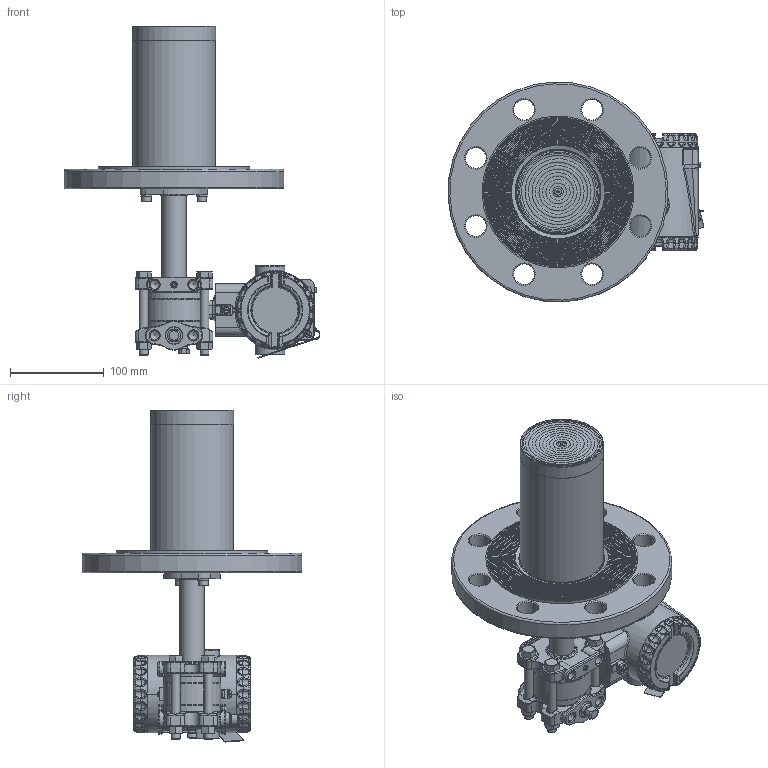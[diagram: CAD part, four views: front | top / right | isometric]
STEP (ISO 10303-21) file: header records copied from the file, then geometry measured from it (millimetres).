
FILE_DESCRIPTION(/* description */ (''),/* implementation_level */ '2;1');
FILE_NAME(/* name */ 'F:\Area\Desenvolvimento_2\Projects\Sensor\projetos\LD400-3d\dimensionais 3D clientes\LD400L\LD400L DN100 PN40 RF ext 150 ref 1-4NPT purga acima.stp',/* time_stamp */ '2023-02-23T17:58:43-03:00',/* author */ ('inventor02'),/* organization */ (''),/* preprocessor_version */ 'ST-DEVELOPER v17',/* originating_system */ 'Autodesk Inventor 2019',/* authorisation */ '');
FILE_SCHEMA (('CONFIG_CONTROL_DESIGN'));
Products named in the file (41): LD30XL DN100 PN40 RF ext 150 ref 1-4NPT purga acima; 204-0301-L-DN100 PN40 RF ext 150 purga acima; nivel fx3 com baixa diferencial 1-4NPT purga acima; involucro fx0-3 apos a usinagem final; flange diferencial std purga; 101-C-7484-01 flange selo nivel VR; 201-A-0504-tubo união teste 1; bujao 1-4NPT; Sangria; Porca 3-8 x 16 UNC; Paraf. 3-8 x 16 UNC; adaptação tubo x flanges 1-1-2 a 4pol; 101-B-0161-anel cortado do tubo - teste1; 101-B-0162-flange fixação tubo; ANSI B18.3.1M - M6x1 x 16; DIN 127 - A 6; flange DN100 PN40 ext 150; 096-B-0212-15; 101-B-7702-02 ext 4-150; 101-C-0143-09; Carcaça 400 com tampas e plaqueta sem letras; 101-D-0845-05 carcaça LD400 sem letras; 101-B-3614-03-tampa 400 sem letras; Tampa visor 400 montada sem letras; 101-B-3612-05 tampa visor 400 sem letras; 101-A-6107; oring 2034; 00034775-0; WHW_250; DIN 915 - M6 x 10; Chapa aterramento externo; 201-A-1771-02 inserto terra recartilhado; AS 1969 - ST4,2; ISO 1207 - M4 x 8; ANSI B18.3.1M - M4x0,7 x 8; Subconjunto plaqueta 400; plaqueta 400 em branco; Parafuso da Plaqueta; Rebite da Plaqueta; 096-A-0169-03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
Assembly tree (50 placements, depth 4):
  LD30XL DN100 PN40 RF ext 150 ref 1-4NPT purga acima
    204-0301-L-DN100 PN40 RF ext 150 purga acima
      nivel fx3 com baixa diferencial 1-4NPT purga acima
        involucro fx0-3 apos a usinagem final
        flange diferencial std purga
        101-C-7484-01 flange selo nivel VR
        201-A-0504-tubo união teste 1
        DIN 915 - M6 x 10
        bujao 1-4NPT
        Sangria
        Porca 3-8 x 16 UNC  x4
        Paraf. 3-8 x 16 UNC  x4
      adaptação tubo x flanges 1-1-2 a 4pol
        101-B-0161-anel cortado do tubo - teste1
        101-B-0162-flange fixação tubo
        ANSI B18.3.1M - M6x1 x 16  x2
        DIN 127 - A 6  x2
      flange DN100 PN40 ext 150
        096-B-0212-15
        101-B-7702-02 ext 4-150
        101-C-0143-09
    Carcaça 400 com tampas e plaqueta sem letras
      101-D-0845-05 carcaça LD400 sem letras
      101-B-3614-03-tampa 400 sem letras
      Tampa visor 400 montada sem letras
        101-B-3612-05 tampa visor 400 sem letras
        101-A-6107
        oring 2034
        00034775-0
        WHW_250
      DIN 915 - M6 x 10
      Chapa aterramento externo
      201-A-1771-02 inserto terra recartilhado
      AS 1969 - ST4,2
      ISO 1207 - M4 x 8
      ANSI B18.3.1M - M4x0,7 x 8  x2
      Subconjunto plaqueta 400
        plaqueta 400 em branco
        Parafuso da Plaqueta
        Rebite da Plaqueta
        096-A-0169-03
        101-A-0502-01
Bounding box: 273.13 x 234.78 x 354.42 mm (x, y, z)
Volume: 1807534.9 mm3; surface area: 459671.4 mm2
Topology: 43 solids, 43 shells, 2837 faces, 6840 edges, 4116 vertices
Faces by surface type: plane 753, cylinder 668, bspline 604, torus 506, cone 230, sphere 76
Full cylindrical faces by diameter (mm): 2 x4, 2.1 x1, 2.2 x1, 2.459 x3, 2.5 x1, 2.7 x1, 2.8 x1, 3 x4, 3.242 x3, 3.5 x1, 3.571 x1, 4 x5, 4.3 x2, 4.4 x1, 4.917 x4, 5 x1, 5.5 x3, 6 x6, 6.1 x2, 6.2 x1, 6.647 x1, 7 x5, 7.6 x2, 7.798 x4, 8 x1, 9.525 x4, 9.728 x6, 10 x2, 10.5 x8, 10.719 x2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
Entity records: 100492 total; most frequent: CARTESIAN_POINT 37355, DIRECTION 13086, ORIENTED_EDGE 12920, EDGE_CURVE 6460, AXIS2_PLACEMENT_3D 5626, VERTEX_POINT 3922, CIRCLE 3276, EDGE_LOOP 2912
